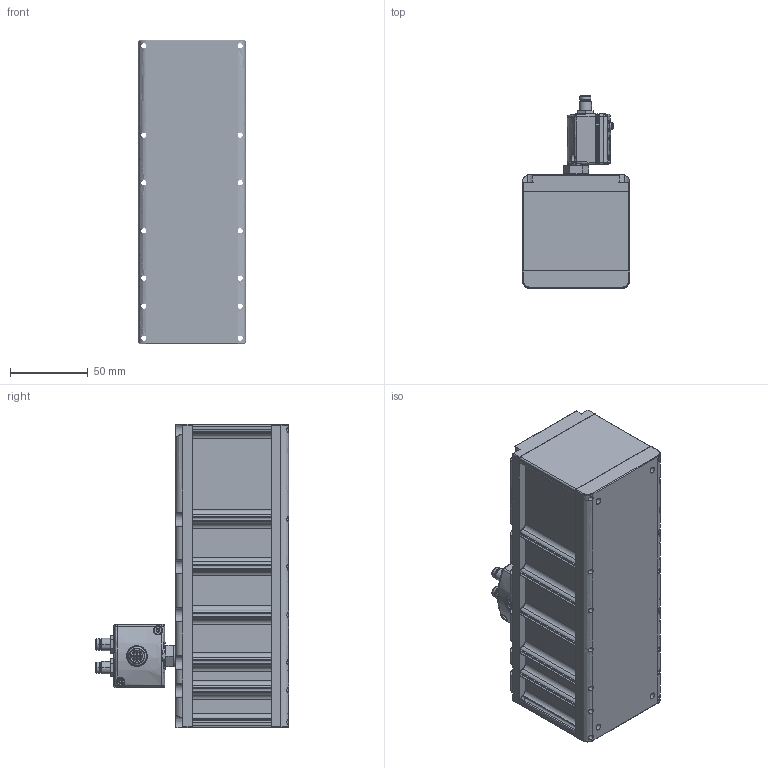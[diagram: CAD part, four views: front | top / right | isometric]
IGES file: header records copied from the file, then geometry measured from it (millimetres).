
Start section: SolidWorks IGES file using analytic representation for surfaces
Global section: file name: K:\SAPELEM\BUREAU D'ETUDES\Dossiers S\S100_S199\S170 Site internet\3D\TURBOS\2T4140V102.igs; native system: SolidWorks 2007; preprocessor: SolidWorks 2007; author: YAR; date: 080313.120058; units: millimetre
Bounding box: 69 x 124.19 x 195 mm (x, y, z)
Surface area: 154794.5 mm2 (no closed solid volume)
Topology: 0 solids, 0 shells, 2797 faces, 28884 edges, 28866 vertices
Faces by surface type: bspline 1928, revolution 869
